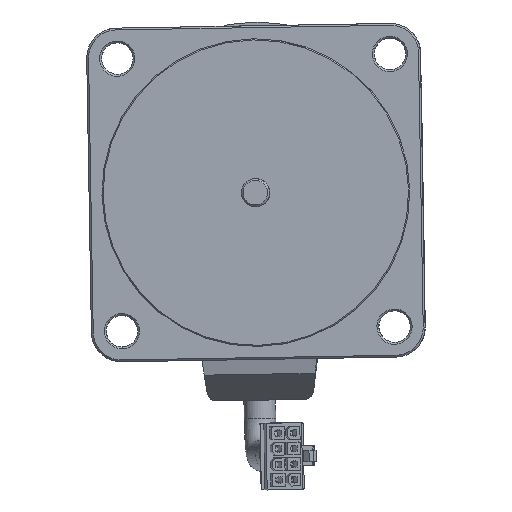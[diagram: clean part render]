
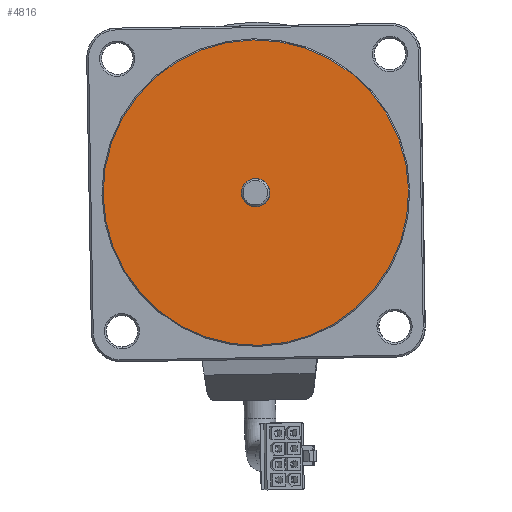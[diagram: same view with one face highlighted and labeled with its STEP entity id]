
A CAD part, front view. The second image highlights one B-rep face of the part: STEP entity #4816.
In plain terms, the highlighted planar face has unit normal (-0.006, -1, -0.001) as drawn and (0, -1, 0) by its records, which use the part's own axes.
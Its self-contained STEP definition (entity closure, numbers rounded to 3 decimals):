
#2098=CARTESIAN_POINT('',(3.8,-2.,0.));
#2099=VERTEX_POINT('',#2098);
#2100=CARTESIAN_POINT('',(0.,-2.,0.));
#2101=DIRECTION('',(0.0,1.0,0.0));
#2102=DIRECTION('',(-1.0,0.0,0.0));
#2103=AXIS2_PLACEMENT_3D('',#2100,#2101,#2102);
#2104=CIRCLE('',#2103,3.8);
#2105=EDGE_CURVE('',#2099,#2099,#2104,.T.);
#4770=CARTESIAN_POINT('',(41.2,-2.,0.));
#4771=VERTEX_POINT('',#4770);
#4772=CARTESIAN_POINT('',(0.,-2.,0.));
#4773=DIRECTION('',(0.0,1.0,0.0));
#4774=DIRECTION('',(-1.0,0.0,0.0));
#4775=AXIS2_PLACEMENT_3D('',#4772,#4773,#4774);
#4776=CIRCLE('',#4775,41.2);
#4777=EDGE_CURVE('',#4771,#4771,#4776,.T.);
#4805=CARTESIAN_POINT('',(0.,-2.,0.));
#4806=DIRECTION('',(0.0,1.0,0.0));
#4807=DIRECTION('',(0.0,0.0,1.0));
#4808=AXIS2_PLACEMENT_3D('',#4805,#4806,#4807);
#4809=PLANE('',#4808);
#4810=ORIENTED_EDGE('',*,*,#4777,.F.);
#4811=EDGE_LOOP('',(#4810));
#4812=FACE_OUTER_BOUND('',#4811,.T.);
#4813=ORIENTED_EDGE('',*,*,#2105,.T.);
#4814=EDGE_LOOP('',(#4813));
#4815=FACE_BOUND('',#4814,.T.);
#4816=ADVANCED_FACE('',(#4812,#4815),#4809,.F.);
